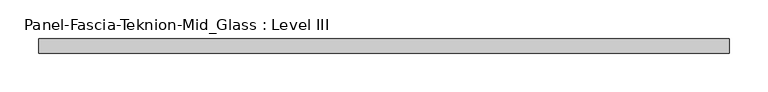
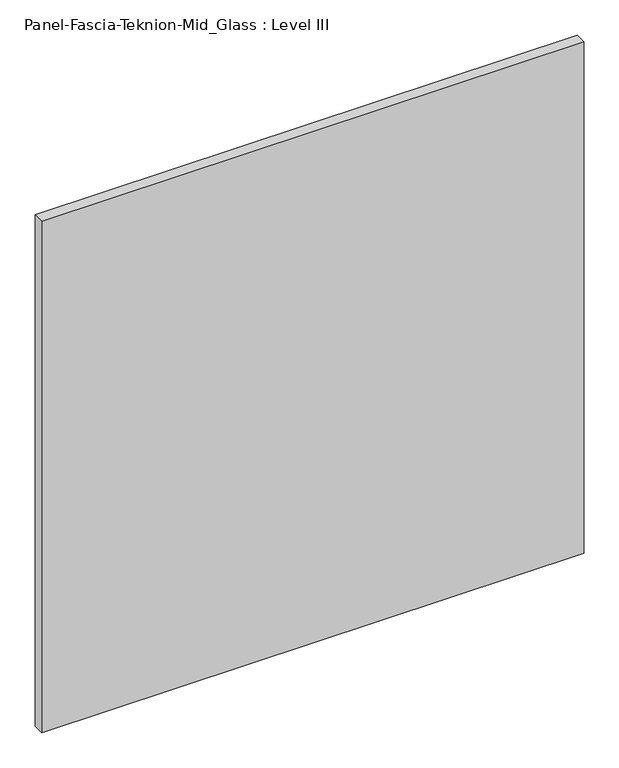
"""IFC4 building model written with IfcOpenShell, lengths in millimetres: proxy geometry, Panel-Fascia-Teknion-Mid_Glass : Level III."""

import ifcopenshell
import ifcopenshell.guid

model = None  # the IFC model being written
_history = None  # IfcOwnerHistory: only IFC2X3 demands one
_inside = {}  # id of a spatial element -> (the spatial element, [elements in it])
_under = {}  # id of a project, library or spatial element -> (it, [spatial elements below it])
_declared = {}  # id of a project -> (the project, [libraries it declares])
_typed = {}  # id of a type object -> (the type object, [elements of that type])
_made_of = {}  # id of a material, layer set ... -> (it, [elements and type objects made of it])


def new_model(schema):
    """Start an empty IFC model of exactly this schema.

    Asked for "IFC4X3", IfcOpenShell would pick the latest addendum, in which some entities
    have other attributes; the version numbers below select the first issue.
    IFC2X3 requires an IfcOwnerHistory on every rooted entity: one is made here for all.
    """
    global model, _history
    if schema == "IFC4X3":
        model = ifcopenshell.file(schema_version=(4, 3, 0, 0))
    else:
        model = ifcopenshell.file(schema=schema)
    _inside.clear()
    _under.clear()
    _declared.clear()
    _typed.clear()
    _made_of.clear()
    _history = None
    if model.schema == "IFC2X3":
        org = make("IfcOrganization", Name="unknown")
        user = make(
            "IfcPersonAndOrganization",
            ThePerson=make("IfcPerson", FamilyName="unknown"),
            TheOrganization=org,
        )
        app = make(
            "IfcApplication",
            ApplicationDeveloper=org,
            Version="unknown",
            ApplicationFullName="unknown",
            ApplicationIdentifier="unknown",
        )
        _history = make(
            "IfcOwnerHistory",
            OwningUser=user,
            OwningApplication=app,
            ChangeAction="ADDED",
            CreationDate=0,
        )
    return model


def make(cls, **values):
    """One entity of the class cls with the attributes given. An attribute that is None is left unset."""
    return model.create_entity(
        cls, **{name: value for name, value in values.items() if value is not None}
    )


def rooted(cls, **values):
    """An entity with a GlobalId (a new one), such as an element, a storey or a relation."""
    return make(cls, GlobalId=ifcopenshell.guid.new(), OwnerHistory=_history, **values)


def si_unit(unit_type, name, prefix=None):
    """IfcSIUnit, for example si_unit("LENGTHUNIT", "METRE", prefix="MILLI")."""
    return make("IfcSIUnit", UnitType=unit_type, Prefix=prefix, Name=name)


def assignment(units):
    """IfcUnitAssignment: the units of a project."""
    return None if units is None else make("IfcUnitAssignment", Units=units)


def point(xyz):
    """IfcCartesianPoint."""
    return None if xyz is None else make("IfcCartesianPoint", Coordinates=xyz)


def direction(xyz):
    """IfcDirection."""
    return None if xyz is None else make("IfcDirection", DirectionRatios=xyz)


def frame(location, z_axis=None, x_axis=None):
    """IfcAxis2Placement3D, a coordinate frame: its origin and axes. An axis left out is left unset."""
    return make(
        "IfcAxis2Placement3D",
        Location=point(location),
        Axis=direction(z_axis),
        RefDirection=direction(x_axis),
    )


def origin():
    """The frame at (0, 0, 0) with its axes left unset."""
    return frame((0.0, 0.0, 0.0))


def place(relative_to, where):
    """IfcLocalPlacement: puts the frame where relative to a parent placement (None: the world)."""
    return make(
        "IfcLocalPlacement", PlacementRelTo=relative_to, RelativePlacement=where
    )


def context(
    kind, dimensions, precision=None, world=None, true_north=None, identifier=None
):
    """IfcGeometricRepresentationContext, for example the 3D "Model" context."""
    return make(
        "IfcGeometricRepresentationContext",
        ContextIdentifier=identifier,
        ContextType=kind,
        CoordinateSpaceDimension=dimensions,
        Precision=precision,
        WorldCoordinateSystem=world,
        TrueNorth=true_north,
    )


def project(units=None, contexts=None):
    """IfcProject with its units and contexts."""
    return rooted(
        "IfcProject",
        Name="project",
        RepresentationContexts=contexts,
        UnitsInContext=assignment(units),
    )


def spatial(cls, under=None, at=None, **own):
    """A site, building, storey or space (cls), placed at a placement, below another one or the project."""
    s = rooted(cls, ObjectPlacement=at, **own)
    if under is not None:
        _under.setdefault(under.id(), (under, []))[1].append(s)
    return s


def polyline(points):
    """IfcPolyline through the points."""
    return make("IfcPolyline", Points=[point(p) for p in points])


def outline(outer, holes=None, kind="AREA"):
    """IfcArbitraryClosedProfileDef: a profile drawn as a closed curve; with holes, ...WithVoids."""
    if holes is None:
        return make("IfcArbitraryClosedProfileDef", ProfileType=kind, OuterCurve=outer)
    return make(
        "IfcArbitraryProfileDefWithVoids",
        ProfileType=kind,
        OuterCurve=outer,
        InnerCurves=holes,
    )


def extrude(swept, where, along, depth):
    """IfcExtrudedAreaSolid: the profile swept, set in the frame where, extruded along a direction by depth."""
    return make(
        "IfcExtrudedAreaSolid",
        SweptArea=swept,
        Position=where,
        ExtrudedDirection=direction(along),
        Depth=depth,
    )


def shape(context_of_items, identifier, shape_type, items):
    """IfcShapeRepresentation: the items that make up one representation, for example the "Body"."""
    return make(
        "IfcShapeRepresentation",
        ContextOfItems=context_of_items,
        RepresentationIdentifier=identifier,
        RepresentationType=shape_type,
        Items=items,
    )


def source(mapping_origin, context_of_items, identifier, shape_type, items):
    """IfcRepresentationMap: a shape defined once, which mapped items show again and again."""
    return make(
        "IfcRepresentationMap",
        MappingOrigin=mapping_origin,
        MappedRepresentation=shape(context_of_items, identifier, shape_type, items),
    )


def transform(
    local_origin,
    x_axis=None,
    y_axis=None,
    z_axis=None,
    scale=None,
    scale2=None,
    scale3=None,
    uniform=True,
):
    """IfcCartesianTransformationOperator3D, or its non-uniform kind. x_axis, y_axis, z_axis: its Axis1, 2, 3."""
    if uniform:
        return make(
            "IfcCartesianTransformationOperator3D",
            Axis1=direction(x_axis),
            Axis2=direction(y_axis),
            LocalOrigin=point(local_origin),
            Scale=scale,
            Axis3=direction(z_axis),
        )
    return make(
        "IfcCartesianTransformationOperator3DnonUniform",
        Axis1=direction(x_axis),
        Axis2=direction(y_axis),
        LocalOrigin=point(local_origin),
        Scale=scale,
        Axis3=direction(z_axis),
        Scale2=scale2,
        Scale3=scale3,
    )


def mapped(mapping_source, mapping_target):
    """IfcMappedItem: shows the shape of a source again, moved by a transform."""
    return make(
        "IfcMappedItem", MappingSource=mapping_source, MappingTarget=mapping_target
    )


def made_of(thing, what):
    """Note that an element or type object is made of a material, layer set ...; save() writes the relation."""
    if what is not None:
        _made_of.setdefault(what.id(), (what, []))[1].append(thing)
    return thing


def element(
    cls,
    number,
    at=None,
    inside=None,
    cuts=None,
    type_object=None,
    material=None,
    context=None,
    identifier="Body",
    shape_type=None,
    held_by="IfcProductDefinitionShape",
    body=None,
    shapes=None,
    **own,
):
    """One element of the class cls, such as IfcWall. Its Tag is "e" and its number.

    at: its placement. inside: the storey or other place that contains it. cuts: it is an
    opening in that element (IfcRelVoidsElement). A single representation is given by context,
    identifier, shape_type and body (its items); several are given by shapes. held_by: the class
    of the entity that holds the representations. save() writes the other relations.
    """
    e = rooted(cls, Tag="e%d" % number, ObjectPlacement=at, **own)
    if body is not None:
        shapes = [shape(context, identifier, shape_type, body)]
    if shapes is not None:
        e.Representation = make(held_by, Representations=shapes)
    if inside is not None:
        _inside.setdefault(inside.id(), (inside, []))[1].append(e)
    if cuts is not None:
        rooted(
            "IfcRelVoidsElement", RelatingBuildingElement=cuts, RelatedOpeningElement=e
        )
    if type_object is not None:
        _typed.setdefault(type_object.id(), (type_object, []))[1].append(e)
    return made_of(e, material)


def aggregate(whole, parts):
    """IfcRelAggregates: a whole, such as a stair, and the parts it consists of."""
    return rooted("IfcRelAggregates", RelatingObject=whole, RelatedObjects=parts)


def save(model, path):
    """Write the relations noted so far, then the file.

    IfcRelAggregates (storeys below a building ...), IfcRelContainedInSpatialStructure (elements
    in a storey), IfcRelDefinesByType, IfcRelAssociatesMaterial and IfcRelDeclares: one each for
    every whole, place, type object, material and project.
    """
    for whole, parts in _under.values():
        aggregate(whole, parts)
    for where, things in _inside.values():
        rooted(
            "IfcRelContainedInSpatialStructure",
            RelatedElements=things,
            RelatingStructure=where,
        )
    for kind, things in _typed.values():
        rooted("IfcRelDefinesByType", RelatedObjects=things, RelatingType=kind)
    for what, things in _made_of.values():
        rooted("IfcRelAssociatesMaterial", RelatedObjects=things, RelatingMaterial=what)
    for by, libraries in _declared.values():
        rooted("IfcRelDeclares", RelatingContext=by, RelatedDefinitions=libraries)
    model.write(path)


def panel_fascia_teknion_mid_glass_level_iii_d39c1b17(model_context):
    return source(origin(), model_context, "Body", "SweptSolid", [
        extrude(outline(polyline([(447.6253906, 9.525), (447.6253906, -9.525), (-447.6253906, -9.525), (-447.6253906, 9.525), (447.6253906, 9.525)])), frame((0.0, 0.0, 3.175), z_axis=(0.0, 0.0, 1.0), x_axis=(1.0, 0.0, 0.0)), (0.0, 0.0, 1.0), 892.175),
    ])


if __name__ == "__main__":
    model = new_model("IFC4")
    model_context = context("Model", 3, world=origin())
    ifc_project = project(units=[si_unit("LENGTHUNIT", "METRE", prefix="MILLI")], contexts=[model_context])
    site = spatial("IfcSite", under=ifc_project)
    building = spatial("IfcBuilding", under=site)
    placement = place(None, origin())
    panel_fascia_teknion_mid_glass_level_iii_shape = panel_fascia_teknion_mid_glass_level_iii_d39c1b17(model_context)
    element("IfcBuildingElementProxy", 1, Name="Panel-Fascia-Teknion-Mid_Glass : Level III", ObjectType="Panel-Fascia-Teknion-Mid_Glass : Level III", at=placement, inside=building, context=model_context, shape_type="MappedRepresentation", body=[
        mapped(panel_fascia_teknion_mid_glass_level_iii_shape, transform((0.0, 0.0, 0.0), x_axis=(1.0, 0.0, 0.0), y_axis=(0.0, 1.0, 0.0), z_axis=(0.0, 0.0, 1.0))),
    ])
    save(model, "model.ifc")
